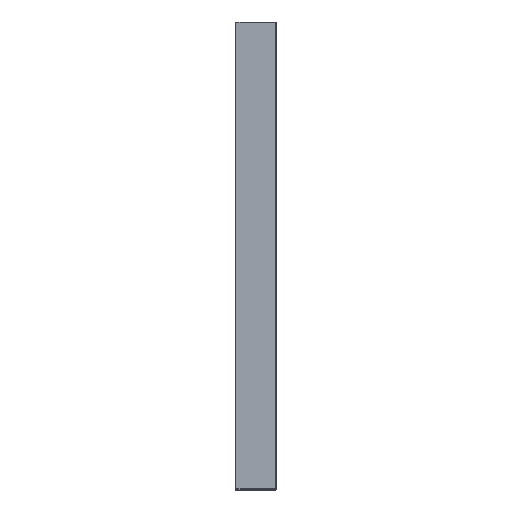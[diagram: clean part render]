
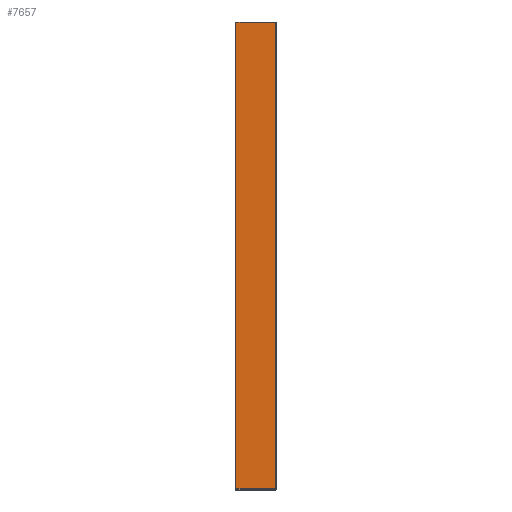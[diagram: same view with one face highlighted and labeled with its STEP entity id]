
A CAD part, left-side view. The second image highlights one B-rep face of the part: STEP entity #7657.
In plain terms, the highlighted planar face has unit normal (-1, 0, 0).
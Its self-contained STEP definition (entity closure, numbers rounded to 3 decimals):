
#46 = VERTEX_POINT ( 'NONE', #1528 ) ;
#74 = VERTEX_POINT ( 'NONE', #3619 ) ;
#259 = VECTOR ( 'NONE', #3962, 1000. ) ;
#418 = CARTESIAN_POINT ( 'NONE',  ( -21.25, 0., 870. ) ) ;
#487 = CARTESIAN_POINT ( 'NONE',  ( -21.25, -0.75, 0. ) ) ;
#651 = VERTEX_POINT ( 'NONE', #1616 ) ;
#675 = LINE ( 'NONE', #1621, #5997 ) ;
#887 = ORIENTED_EDGE ( 'NONE', *, *, #4264, .T. ) ;
#901 = DIRECTION ( 'NONE',  ( 0., 0., 1. ) ) ;
#1116 = DIRECTION ( 'NONE',  ( 1., 0., 0. ) ) ;
#1528 = CARTESIAN_POINT ( 'NONE',  ( -21.25, -0.75, 870. ) ) ;
#1595 = LINE ( 'NONE', #8209, #8076 ) ;
#1616 = CARTESIAN_POINT ( 'NONE',  ( -21.25, 73., 0. ) ) ;
#1621 = CARTESIAN_POINT ( 'NONE',  ( -21.25, 73., 870. ) ) ;
#2737 = LINE ( 'NONE', #6390, #4365 ) ;
#3130 = EDGE_CURVE ( 'NONE', #74, #46, #3974, .T. ) ;
#3378 = EDGE_LOOP ( 'NONE', ( #3438, #887, #7989, #4641 ) ) ;
#3438 = ORIENTED_EDGE ( 'NONE', *, *, #8434, .T. ) ;
#3619 = CARTESIAN_POINT ( 'NONE',  ( -21.25, 73., 870. ) ) ;
#3962 = DIRECTION ( 'NONE',  ( 0., -1., 0. ) ) ;
#3974 = LINE ( 'NONE', #7299, #259 ) ;
#4150 = DIRECTION ( 'NONE',  ( 0., -1., 0. ) ) ;
#4264 = EDGE_CURVE ( 'NONE', #8827, #46, #2737, .T. ) ;
#4306 = EDGE_CURVE ( 'NONE', #74, #651, #675, .T. ) ;
#4355 = FACE_OUTER_BOUND ( 'NONE', #3378, .T. ) ;
#4365 = VECTOR ( 'NONE', #901, 1000. ) ;
#4390 = DIRECTION ( 'NONE',  ( 0., 0., -1. ) ) ;
#4557 = PLANE ( 'NONE',  #5305 ) ;
#4641 = ORIENTED_EDGE ( 'NONE', *, *, #4306, .T. ) ;
#5305 = AXIS2_PLACEMENT_3D ( 'NONE', #418, #1116, #5957 ) ;
#5957 = DIRECTION ( 'NONE',  ( 0., 0., -1. ) ) ;
#5997 = VECTOR ( 'NONE', #4390, 1000. ) ;
#6390 = CARTESIAN_POINT ( 'NONE',  ( -21.25, -0.75, 870. ) ) ;
#7299 = CARTESIAN_POINT ( 'NONE',  ( -21.25, 0., 870. ) ) ;
#7657 = ADVANCED_FACE ( 'NONE', ( #4355 ), #4557, .F. ) ;
#7989 = ORIENTED_EDGE ( 'NONE', *, *, #3130, .F. ) ;
#8076 = VECTOR ( 'NONE', #4150, 1000. ) ;
#8209 = CARTESIAN_POINT ( 'NONE',  ( -21.25, 0., 0. ) ) ;
#8434 = EDGE_CURVE ( 'NONE', #651, #8827, #1595, .T. ) ;
#8827 = VERTEX_POINT ( 'NONE', #487 ) ;
